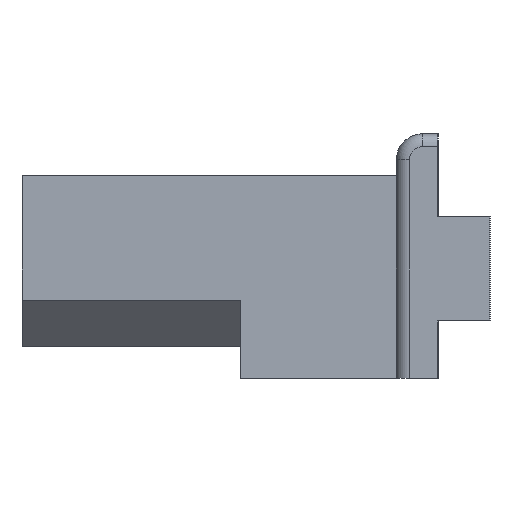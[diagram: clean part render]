
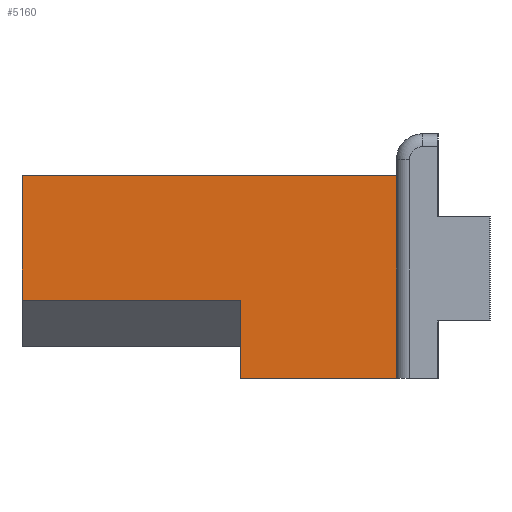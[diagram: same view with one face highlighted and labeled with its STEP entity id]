
A CAD part, left-side view. The second image highlights one B-rep face of the part: STEP entity #5160.
In plain terms, the highlighted planar face has unit normal (-1, 0, 0).
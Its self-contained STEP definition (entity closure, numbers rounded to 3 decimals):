
#18=DIRECTION('',(0.,-1.,0.));
#19=VECTOR('',#18,3.);
#20=CARTESIAN_POINT('',(-11.65,-0.2,-2.35));
#21=LINE('',#20,#19);
#1025=DIRECTION('',(0.,0.,1.));
#1026=VECTOR('',#1025,3.9);
#1027=CARTESIAN_POINT('',(-11.65,-3.2,-2.35));
#1028=LINE('',#1027,#1026);
#1073=DIRECTION('',(0.,-1.,0.));
#1074=VECTOR('',#1073,4.2);
#1075=CARTESIAN_POINT('',(-11.65,4.,-0.85));
#1076=LINE('',#1075,#1074);
#1077=DIRECTION('',(0.,0.,1.));
#1078=VECTOR('',#1077,2.4);
#1079=CARTESIAN_POINT('',(-11.65,4.,-0.85));
#1080=LINE('',#1079,#1078);
#1081=DIRECTION('',(0.,-1.,0.));
#1082=VECTOR('',#1081,7.2);
#1083=CARTESIAN_POINT('',(-11.65,4.,1.55));
#1084=LINE('',#1083,#1082);
#1085=DIRECTION('',(0.,0.,1.));
#1086=VECTOR('',#1085,1.5);
#1087=CARTESIAN_POINT('',(-11.65,-0.2,-2.35));
#1088=LINE('',#1087,#1086);
#2851=CARTESIAN_POINT('',(-11.65,-3.2,-2.35));
#2852=CARTESIAN_POINT('',(-11.65,-3.2,1.55));
#2853=VERTEX_POINT('',#2851);
#2854=VERTEX_POINT('',#2852);
#2859=CARTESIAN_POINT('',(-11.65,4.,1.55));
#2860=VERTEX_POINT('',#2859);
#2863=CARTESIAN_POINT('',(-11.65,4.,-0.85));
#2864=CARTESIAN_POINT('',(-11.65,-0.2,-0.85));
#2865=VERTEX_POINT('',#2863);
#2866=VERTEX_POINT('',#2864);
#2907=CARTESIAN_POINT('',(-11.65,-0.2,-2.35));
#2909=VERTEX_POINT('',#2907);
#5143=CARTESIAN_POINT('',(-11.65,4.,-2.35));
#5144=DIRECTION('',(-1.,0.,0.));
#5145=DIRECTION('',(0.,-1.,0.));
#5146=AXIS2_PLACEMENT_3D('',#5143,#5144,#5145);
#5147=PLANE('',#5146);
#5149=ORIENTED_EDGE('',*,*,#5148,.F.);
#5151=ORIENTED_EDGE('',*,*,#5150,.T.);
#5153=ORIENTED_EDGE('',*,*,#5152,.T.);
#5154=ORIENTED_EDGE('',*,*,#5068,.F.);
#5155=ORIENTED_EDGE('',*,*,#3760,.F.);
#5157=ORIENTED_EDGE('',*,*,#5156,.T.);
#5158=EDGE_LOOP('',(#5149,#5151,#5153,#5154,#5155,#5157));
#5159=FACE_OUTER_BOUND('',#5158,.F.);
#5160=ADVANCED_FACE('',(#5159),#5147,.T.);
#3760=EDGE_CURVE('',#2909,#2853,#21,.T.);
#5068=EDGE_CURVE('',#2853,#2854,#1028,.T.);
#5148=EDGE_CURVE('',#2865,#2866,#1076,.T.);
#5150=EDGE_CURVE('',#2865,#2860,#1080,.T.);
#5152=EDGE_CURVE('',#2860,#2854,#1084,.T.);
#5156=EDGE_CURVE('',#2909,#2866,#1088,.T.);
